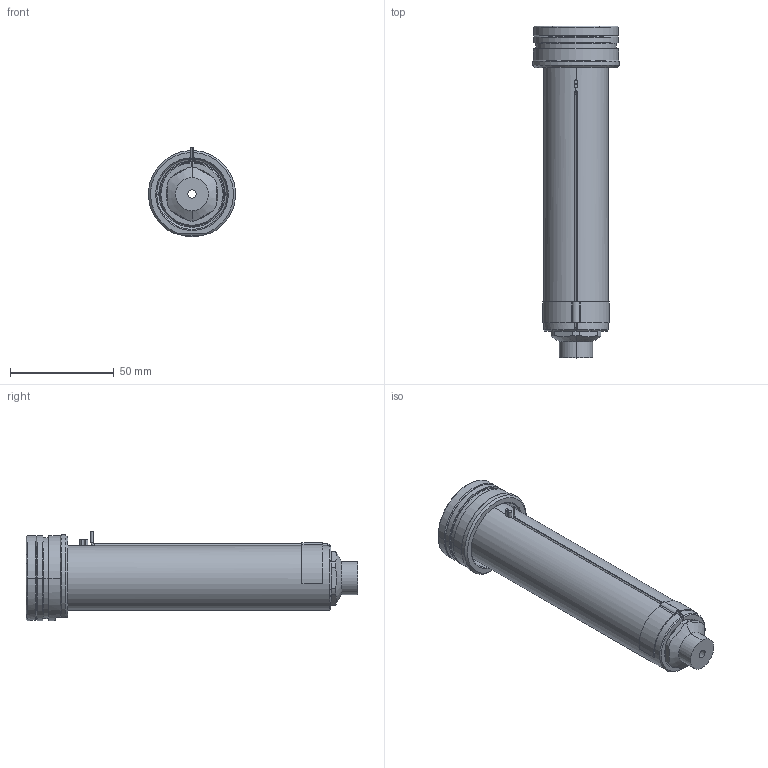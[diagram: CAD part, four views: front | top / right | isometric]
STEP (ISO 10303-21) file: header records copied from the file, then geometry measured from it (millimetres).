
FILE_DESCRIPTION((''),'2;1');
FILE_NAME('EO12_VG-FB_WR_140_SW','2024-02-19T13:40:58',('sundharh'),(''),'CREO PARAMETRIC BY PTC INC, 2023154','CREO PARAMETRIC BY PTC INC, 2023154','');
FILE_SCHEMA(('CONFIG_CONTROL_DESIGN'));
Length unit declared in the file: millimetre
Products named in the file (1): EO12_VG-FB_WR_140_SW
Bounding box: 41.85 x 160 x 43 mm (x, y, z)
Volume: 106272.6 mm3; surface area: 29493.7 mm2
Topology: 2 solids, 3 shells, 209 faces, 509 edges, 307 vertices
Faces by surface type: cylinder 73, plane 47, cone 41, torus 37, bspline 9, sphere 2
Entity records: 6976 total; most frequent: CARTESIAN_POINT 1947, DIRECTION 1134, ORIENTED_EDGE 1010, EDGE_CURVE 505, AXIS2_PLACEMENT_3D 480, VERTEX_POINT 307, CIRCLE 280, EDGE_LOOP 226
